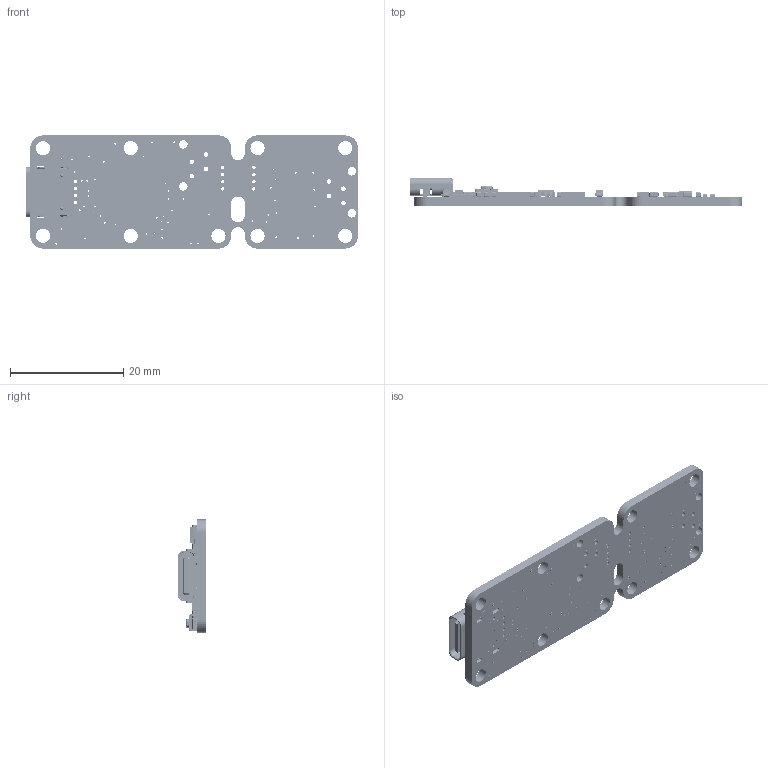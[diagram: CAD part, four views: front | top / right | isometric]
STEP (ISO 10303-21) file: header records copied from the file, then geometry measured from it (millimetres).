
FILE_DESCRIPTION (( 'STEP AP214' ), '1' );
FILE_NAME ('RNGFND1C.STEP', '2025-10-21T12:10:16', ( '' ), ( '' ), 'SwSTEP 2.0', 'SolidWorks 2008', '' );
FILE_SCHEMA (( 'AUTOMOTIVE_DESIGN' ));
Length unit declared in the file: millimetre
Products named in the file (30): R13; sens2; R29; FLASH1; D7; R18; REG1; sens1; I1; LDO1; RNGFND1C; C19; YLED; YBUTTON; C1; R12; C13; USB1; C16; R6; C27; CPU1; R3; R15; R5; C22; R1; PCB; TEMP1; reg2
Assembly tree (50 placements, depth 2):
  RNGFND1C
    C27  x13
    PCB
    C13
    C1
    R15
    R12
    R18  x3
    R5
    R6  x2
    YLED
    I1
    C19
    C22  x6
    reg2
    R1
    TEMP1
    R29
    sens1
    FLASH1
    R13  x2
    CPU1
    REG1
    D7
    LDO1
    YBUTTON
    C16
    sens2
    USB1
    R3
Bounding box: 58.65 x 5.07 x 20 mm (x, y, z)
Volume: 2002 mm3; surface area: 4009.8 mm2
Topology: 54 solids, 54 shells, 8170 faces, 21226 edges, 13678 vertices
Faces by surface type: plane 5029, cylinder 2147, bspline 779, sphere 192, cone 12, torus 11
Entity records: 326728 total; most frequent: CARTESIAN_POINT 82079, ORIENTED_EDGE 37282, DIRECTION 33619, EDGE_CURVE 18641, VECTOR 13535, LINE 13535, VERTEX_POINT 12298, AXIS2_PLACEMENT_3D 10042
